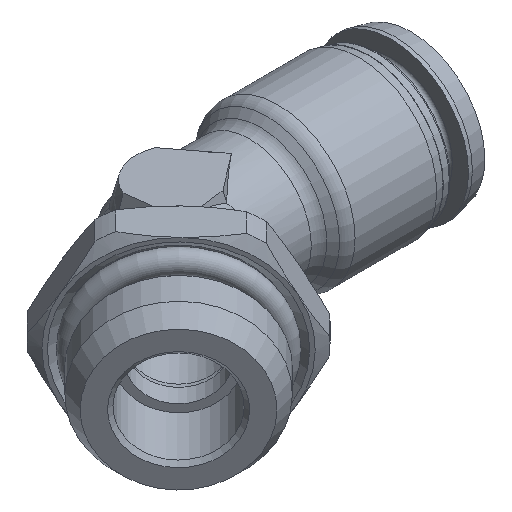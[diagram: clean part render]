
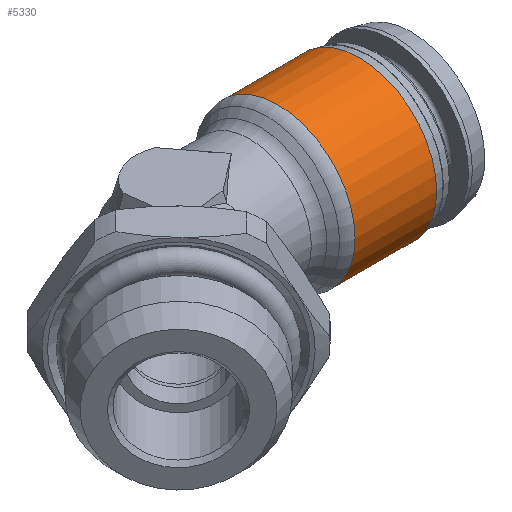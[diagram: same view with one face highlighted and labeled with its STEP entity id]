
A CAD part, isometric view. The second image highlights one B-rep face of the part: STEP entity #5330.
In plain terms, the highlighted cylindrical face has radius 10 mm (diameter 20 mm), a full revolution.
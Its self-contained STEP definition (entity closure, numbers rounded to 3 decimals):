
#920 = CARTESIAN_POINT ( 'NONE',  ( 23.38, 0., 10. ) ) ;
#930 = CARTESIAN_POINT ( 'NONE',  ( 12.828, 0., 10. ) ) ;
#1970 = ORIENTED_EDGE ( 'NONE', *, *, #5747, .T. ) ;
#2158 = ORIENTED_EDGE ( 'NONE', *, *, #5745, .F. ) ;
#2367 = EDGE_LOOP ( 'NONE', ( #2158 ) ) ;
#2401 = EDGE_LOOP ( 'NONE', ( #1970 ) ) ;
#3461 = FACE_OUTER_BOUND ( 'NONE', #2401, .T. ) ;
#3465 = FACE_OUTER_BOUND ( 'NONE', #2367, .T. ) ;
#3468 = CYLINDRICAL_SURFACE ( 'NONE', #4506, 10. ) ;
#3509 = VERTEX_POINT ( 'NONE', #930 ) ;
#3682 = VERTEX_POINT ( 'NONE', #920 ) ;
#3684 = CIRCLE ( 'NONE', #4556, 10. ) ;
#3695 = CIRCLE ( 'NONE', #4543, 10. ) ;
#4506 = AXIS2_PLACEMENT_3D ( 'NONE', #8334, #8286, #8342 ) ;
#4543 = AXIS2_PLACEMENT_3D ( 'NONE', #7029, #7030, #7031 ) ;
#4556 = AXIS2_PLACEMENT_3D ( 'NONE', #7039, #7040, #7041 ) ;
#5330 = ADVANCED_FACE ( 'NONE', ( #3465, #3461 ), #3468, .T. ) ;
#5745 = EDGE_CURVE ( 'NONE', #3509, #3509, #3695, .T. ) ;
#5747 = EDGE_CURVE ( 'NONE', #3682, #3682, #3684, .T. ) ;
#7029 = CARTESIAN_POINT ( 'NONE',  ( 12.828, 0., 0. ) ) ;
#7030 = DIRECTION ( 'NONE',  ( -1., 0., 0. ) ) ;
#7031 = DIRECTION ( 'NONE',  ( 0., 0., 1. ) ) ;
#7039 = CARTESIAN_POINT ( 'NONE',  ( 23.38, 0., 0. ) ) ;
#7040 = DIRECTION ( 'NONE',  ( -1., 0., 0. ) ) ;
#7041 = DIRECTION ( 'NONE',  ( 0., 0., 1. ) ) ;
#8286 = DIRECTION ( 'NONE',  ( -1., 0., 0. ) ) ;
#8334 = CARTESIAN_POINT ( 'NONE',  ( 0., 0., 0. ) ) ;
#8342 = DIRECTION ( 'NONE',  ( 0., 0., 1. ) ) ;
